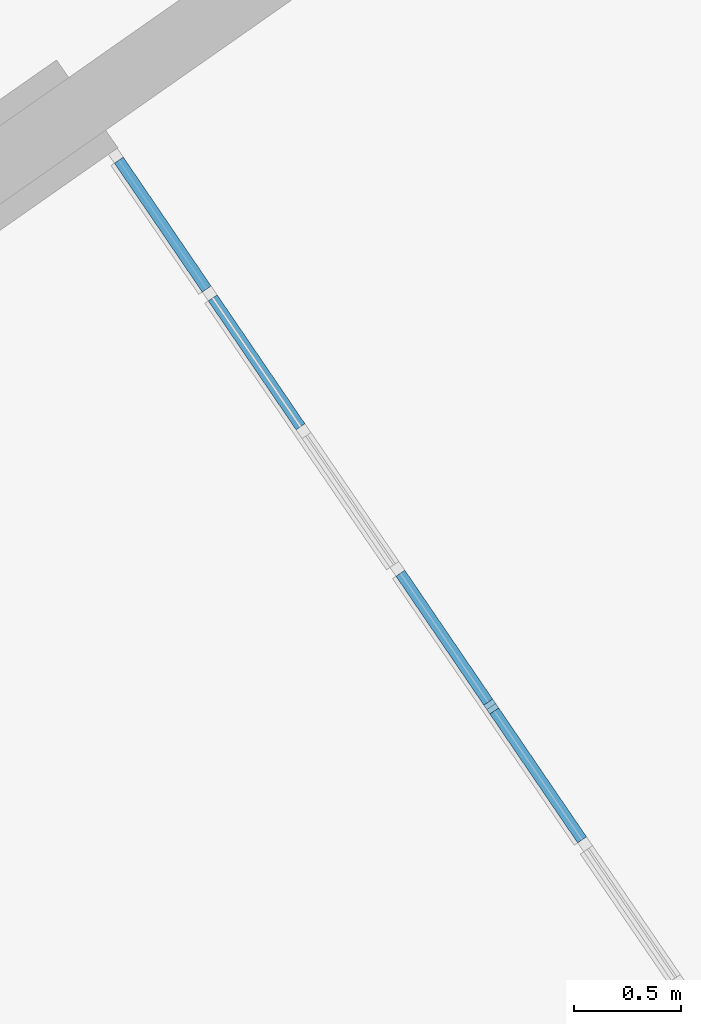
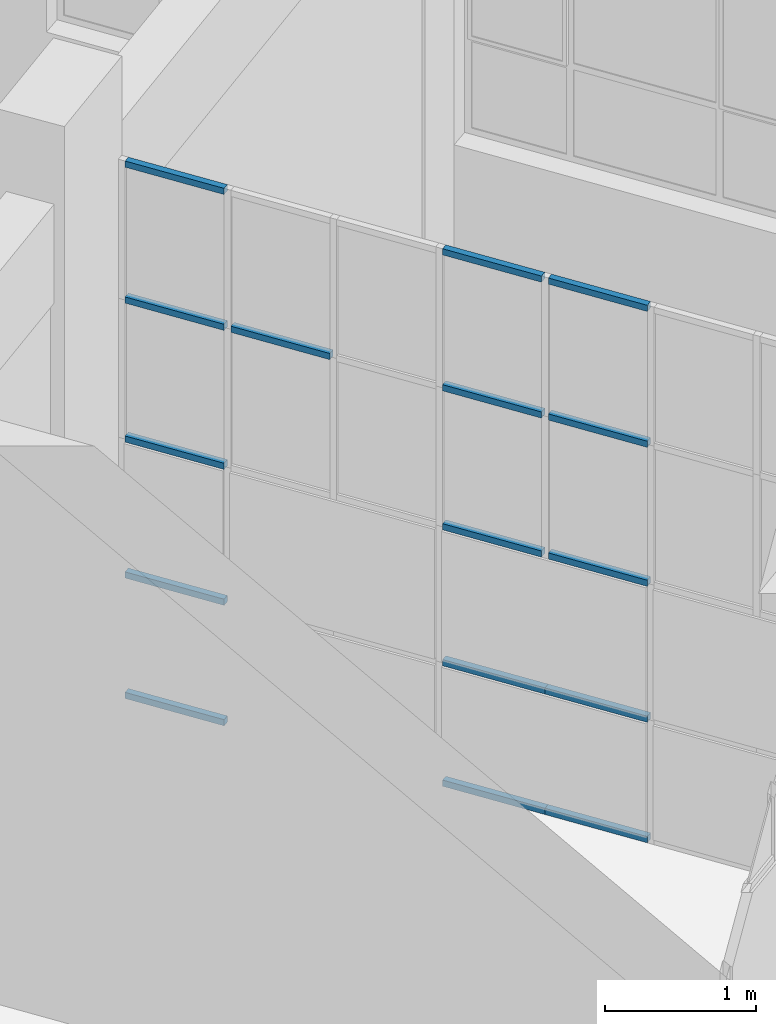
# One storey, part 35 of 157: 16 members, 1 element without a shape of its own.
"""IFC2X3 building model written with IfcOpenShell, lengths in millimetres."""

import ifcopenshell
import ifcopenshell.guid

model = None  # the IFC model being written
_history = None  # IfcOwnerHistory: only IFC2X3 demands one
_inside = {}  # id of a spatial element -> (the spatial element, [elements in it])
_under = {}  # id of a project, library or spatial element -> (it, [spatial elements below it])
_declared = {}  # id of a project -> (the project, [libraries it declares])
_typed = {}  # id of a type object -> (the type object, [elements of that type])
_made_of = {}  # id of a material, layer set ... -> (it, [elements and type objects made of it])


def new_model(schema):
    """Start an empty IFC model of exactly this schema.

    Asked for "IFC4X3", IfcOpenShell would pick the latest addendum, in which some entities
    have other attributes; the version numbers below select the first issue.
    IFC2X3 requires an IfcOwnerHistory on every rooted entity: one is made here for all.
    """
    global model, _history
    if schema == "IFC4X3":
        model = ifcopenshell.file(schema_version=(4, 3, 0, 0))
    else:
        model = ifcopenshell.file(schema=schema)
    _inside.clear()
    _under.clear()
    _declared.clear()
    _typed.clear()
    _made_of.clear()
    _history = None
    if model.schema == "IFC2X3":
        org = make("IfcOrganization", Name="unknown")
        user = make(
            "IfcPersonAndOrganization",
            ThePerson=make("IfcPerson", FamilyName="unknown"),
            TheOrganization=org,
        )
        app = make(
            "IfcApplication",
            ApplicationDeveloper=org,
            Version="unknown",
            ApplicationFullName="unknown",
            ApplicationIdentifier="unknown",
        )
        _history = make(
            "IfcOwnerHistory",
            OwningUser=user,
            OwningApplication=app,
            ChangeAction="ADDED",
            CreationDate=0,
        )
    return model


def make(cls, **values):
    """One entity of the class cls with the attributes given. An attribute that is None is left unset."""
    return model.create_entity(
        cls, **{name: value for name, value in values.items() if value is not None}
    )


def entity(cls, *values):
    """Any entity or typed value of the class cls, its attributes in the order of the schema. None: left unset."""
    e = model.create_entity(cls)
    for i, value in enumerate(values):
        if value is not None:
            e[i] = value
    return e


def rooted(cls, **values):
    """An entity with a GlobalId (a new one), such as an element, a storey or a relation."""
    return make(cls, GlobalId=ifcopenshell.guid.new(), OwnerHistory=_history, **values)


def si_unit(unit_type, name, prefix=None):
    """IfcSIUnit, for example si_unit("LENGTHUNIT", "METRE", prefix="MILLI")."""
    return make("IfcSIUnit", UnitType=unit_type, Prefix=prefix, Name=name)


def converted_unit(unit_type, name, factor, base, dimensions=None, offset=None):
    """IfcConversionBasedUnit, such as the inch: factor (a typed value) times the base unit."""
    return make(
        "IfcConversionBasedUnit"
        if offset is None
        else "IfcConversionBasedUnitWithOffset",
        ConversionOffset=offset,
        Dimensions=None
        if dimensions is None
        else entity("IfcDimensionalExponents", *dimensions),
        UnitType=unit_type,
        Name=name,
        ConversionFactor=make(
            "IfcMeasureWithUnit", ValueComponent=factor, UnitComponent=base
        ),
    )


def derived_unit(unit_type, elements):
    """IfcDerivedUnit: a product of units, each with its exponent."""
    return make(
        "IfcDerivedUnit",
        Elements=[
            make("IfcDerivedUnitElement", Unit=unit, Exponent=power)
            for unit, power in elements
        ],
        UnitType=unit_type,
    )


def assignment(units):
    """IfcUnitAssignment: the units of a project."""
    return None if units is None else make("IfcUnitAssignment", Units=units)


def point(xyz):
    """IfcCartesianPoint."""
    return None if xyz is None else make("IfcCartesianPoint", Coordinates=xyz)


def direction(xyz):
    """IfcDirection."""
    return None if xyz is None else make("IfcDirection", DirectionRatios=xyz)


def frame(location, z_axis=None, x_axis=None):
    """IfcAxis2Placement3D, a coordinate frame: its origin and axes. An axis left out is left unset."""
    return make(
        "IfcAxis2Placement3D",
        Location=point(location),
        Axis=direction(z_axis),
        RefDirection=direction(x_axis),
    )


def frame_2d(location, x_axis=None):
    """IfcAxis2Placement2D, a coordinate frame in the plane: its origin and x axis."""
    return make(
        "IfcAxis2Placement2D", Location=point(location), RefDirection=direction(x_axis)
    )


def origin():
    """The frame at (0, 0, 0) with its axes left unset."""
    return frame((0.0, 0.0, 0.0))


def origin_2d_with_axis():
    """The frame at (0, 0) in the plane with the x axis (1, 0) written out."""
    return frame_2d((0.0, 0.0), x_axis=(1.0, 0.0))


def place(relative_to, where):
    """IfcLocalPlacement: puts the frame where relative to a parent placement (None: the world)."""
    return make(
        "IfcLocalPlacement", PlacementRelTo=relative_to, RelativePlacement=where
    )


def context(
    kind, dimensions, precision=None, world=None, true_north=None, identifier=None
):
    """IfcGeometricRepresentationContext, for example the 3D "Model" context."""
    return make(
        "IfcGeometricRepresentationContext",
        ContextIdentifier=identifier,
        ContextType=kind,
        CoordinateSpaceDimension=dimensions,
        Precision=precision,
        WorldCoordinateSystem=world,
        TrueNorth=true_north,
    )


def subcontext(parent, identifier, kind, view, scale=None):
    """IfcGeometricRepresentationSubContext, for example "Body" below "Model"."""
    return make(
        "IfcGeometricRepresentationSubContext",
        ContextIdentifier=identifier,
        ContextType=kind,
        ParentContext=parent,
        TargetScale=scale,
        TargetView=view,
    )


def project(units=None, contexts=None):
    """IfcProject with its units and contexts."""
    return rooted(
        "IfcProject",
        Name="project",
        RepresentationContexts=contexts,
        UnitsInContext=assignment(units),
    )


def spatial(cls, under=None, at=None, **own):
    """A site, building, storey or space (cls), placed at a placement, below another one or the project."""
    s = rooted(cls, ObjectPlacement=at, **own)
    if under is not None:
        _under.setdefault(under.id(), (under, []))[1].append(s)
    return s


def profile(cls, at=None, kind="AREA", **sizes):
    """A parametric profile (cls). Its sizes go by their IFC names, for example OverallWidth=200.0."""
    return make(cls, ProfileType=kind, Position=at, **sizes)


def rectangle(**sizes):
    """IfcRectangleProfileDef."""
    return profile("IfcRectangleProfileDef", **sizes)


def extrude(swept, where, along, depth):
    """IfcExtrudedAreaSolid: the profile swept, set in the frame where, extruded along a direction by depth."""
    return make(
        "IfcExtrudedAreaSolid",
        SweptArea=swept,
        Position=where,
        ExtrudedDirection=direction(along),
        Depth=depth,
    )


def shape(context_of_items, identifier, shape_type, items):
    """IfcShapeRepresentation: the items that make up one representation, for example the "Body"."""
    return make(
        "IfcShapeRepresentation",
        ContextOfItems=context_of_items,
        RepresentationIdentifier=identifier,
        RepresentationType=shape_type,
        Items=items,
    )


def source(mapping_origin, context_of_items, identifier, shape_type, items):
    """IfcRepresentationMap: a shape defined once, which mapped items show again and again."""
    return make(
        "IfcRepresentationMap",
        MappingOrigin=mapping_origin,
        MappedRepresentation=shape(context_of_items, identifier, shape_type, items),
    )


def transform(
    local_origin,
    x_axis=None,
    y_axis=None,
    z_axis=None,
    scale=None,
    scale2=None,
    scale3=None,
    uniform=True,
):
    """IfcCartesianTransformationOperator3D, or its non-uniform kind. x_axis, y_axis, z_axis: its Axis1, 2, 3."""
    if uniform:
        return make(
            "IfcCartesianTransformationOperator3D",
            Axis1=direction(x_axis),
            Axis2=direction(y_axis),
            LocalOrigin=point(local_origin),
            Scale=scale,
            Axis3=direction(z_axis),
        )
    return make(
        "IfcCartesianTransformationOperator3DnonUniform",
        Axis1=direction(x_axis),
        Axis2=direction(y_axis),
        LocalOrigin=point(local_origin),
        Scale=scale,
        Axis3=direction(z_axis),
        Scale2=scale2,
        Scale3=scale3,
    )


def mapped(mapping_source, mapping_target):
    """IfcMappedItem: shows the shape of a source again, moved by a transform."""
    return make(
        "IfcMappedItem", MappingSource=mapping_source, MappingTarget=mapping_target
    )


def material(Name=None, Category=None):
    """IfcMaterial."""
    return make("IfcMaterial", Name=Name, Category=Category)


def made_of(thing, what):
    """Note that an element or type object is made of a material, layer set ...; save() writes the relation."""
    if what is not None:
        _made_of.setdefault(what.id(), (what, []))[1].append(thing)
    return thing


def type_object(cls, material=None, **own):
    """A type object (cls), such as IfcWallType, which elements share."""
    return made_of(rooted(cls, **own), material)


def type_shapes(of_type, sources):
    """Give a type object the sources (RepresentationMaps) that its elements show as mapped items."""
    of_type.RepresentationMaps = sources


def element(
    cls,
    number,
    at=None,
    inside=None,
    cuts=None,
    type_object=None,
    material=None,
    context=None,
    identifier="Body",
    shape_type=None,
    held_by="IfcProductDefinitionShape",
    body=None,
    shapes=None,
    **own,
):
    """One element of the class cls, such as IfcWall. Its Tag is "e" and its number.

    at: its placement. inside: the storey or other place that contains it. cuts: it is an
    opening in that element (IfcRelVoidsElement). A single representation is given by context,
    identifier, shape_type and body (its items); several are given by shapes. held_by: the class
    of the entity that holds the representations. save() writes the other relations.
    """
    e = rooted(cls, Tag="e%d" % number, ObjectPlacement=at, **own)
    if body is not None:
        shapes = [shape(context, identifier, shape_type, body)]
    if shapes is not None:
        e.Representation = make(held_by, Representations=shapes)
    if inside is not None:
        _inside.setdefault(inside.id(), (inside, []))[1].append(e)
    if cuts is not None:
        rooted(
            "IfcRelVoidsElement", RelatingBuildingElement=cuts, RelatedOpeningElement=e
        )
    if type_object is not None:
        _typed.setdefault(type_object.id(), (type_object, []))[1].append(e)
    return made_of(e, material)


def aggregate(whole, parts):
    """IfcRelAggregates: a whole, such as a stair, and the parts it consists of."""
    return rooted("IfcRelAggregates", RelatingObject=whole, RelatedObjects=parts)


def save(model, path):
    """Write the relations noted so far, then the file.

    IfcRelAggregates (storeys below a building ...), IfcRelContainedInSpatialStructure (elements
    in a storey), IfcRelDefinesByType, IfcRelAssociatesMaterial and IfcRelDeclares: one each for
    every whole, place, type object, material and project.
    """
    for whole, parts in _under.values():
        aggregate(whole, parts)
    for where, things in _inside.values():
        rooted(
            "IfcRelContainedInSpatialStructure",
            RelatedElements=things,
            RelatingStructure=where,
        )
    for kind, things in _typed.values():
        rooted("IfcRelDefinesByType", RelatedObjects=things, RelatingType=kind)
    for what, things in _made_of.values():
        rooted("IfcRelAssociatesMaterial", RelatedObjects=things, RelatingMaterial=what)
    for by, libraries in _declared.values():
        rooted("IfcRelDeclares", RelatingContext=by, RelatedDefinitions=libraries)
    model.write(path)


model = new_model("IFC2X3")

# Units and contexts
model_context = context("Model", 3, precision=0.01, world=origin(), true_north=direction((6.123031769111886e-17, 1.0)))
body_context = subcontext(model_context, "Body", "Model", "MODEL_VIEW")
ifc_project = project(units=[si_unit("LENGTHUNIT", "METRE", prefix="MILLI"), si_unit("AREAUNIT", "SQUARE_METRE"), si_unit("VOLUMEUNIT", "CUBIC_METRE"), converted_unit("PLANEANGLEUNIT", "DEGREE", entity("IfcRatioMeasure", 0.017453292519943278), si_unit("PLANEANGLEUNIT", "RADIAN"), dimensions=[0, 0, 0, 0, 0, 0, 0]), si_unit("MASSUNIT", "GRAM", prefix="KILO"), derived_unit("MASSDENSITYUNIT", [(si_unit("MASSUNIT", "GRAM", prefix="KILO"), 1), (si_unit("LENGTHUNIT", "METRE"), -3)]), derived_unit("MOMENTOFINERTIAUNIT", [(si_unit("LENGTHUNIT", "METRE"), 4)]), si_unit("TIMEUNIT", "SECOND"), si_unit("FREQUENCYUNIT", "HERTZ"), si_unit("THERMODYNAMICTEMPERATUREUNIT", "DEGREE_CELSIUS"), derived_unit("THERMALTRANSMITTANCEUNIT", [(si_unit("MASSUNIT", "GRAM", prefix="KILO"), 1), (si_unit("THERMODYNAMICTEMPERATUREUNIT", "KELVIN"), -1), (si_unit("TIMEUNIT", "SECOND"), -3)]), derived_unit("THERMALCONDUCTANCEUNIT", [(si_unit("MASSUNIT", "GRAM", prefix="KILO"), 1), (si_unit("LENGTHUNIT", "METRE"), 1), (si_unit("THERMODYNAMICTEMPERATUREUNIT", "KELVIN"), -1), (si_unit("TIMEUNIT", "SECOND"), -3)]), derived_unit("VOLUMETRICFLOWRATEUNIT", [(si_unit("LENGTHUNIT", "METRE"), 3), (si_unit("TIMEUNIT", "SECOND"), -1)]), derived_unit("MASSFLOWRATEUNIT", [(si_unit("MASSUNIT", "GRAM", prefix="KILO"), 1), (si_unit("TIMEUNIT", "SECOND"), -1)]), derived_unit("ROTATIONALFREQUENCYUNIT", [(si_unit("TIMEUNIT", "SECOND"), -1)]), si_unit("ELECTRICCURRENTUNIT", "AMPERE"), si_unit("ELECTRICVOLTAGEUNIT", "VOLT"), si_unit("POWERUNIT", "WATT"), converted_unit("FORCEUNIT", "KIP", entity("IfcRatioMeasure", 2.088543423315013e-05), si_unit("FORCEUNIT", "NEWTON"), dimensions=[1, 1, -2, 0, 0, 0, 0]), si_unit("ILLUMINANCEUNIT", "LUX"), si_unit("LUMINOUSFLUXUNIT", "LUMEN"), si_unit("LUMINOUSINTENSITYUNIT", "CANDELA"), derived_unit("USERDEFINED", [(si_unit("MASSUNIT", "GRAM", prefix="KILO"), -1), (si_unit("LENGTHUNIT", "METRE"), -2), (si_unit("TIMEUNIT", "SECOND"), 3), (si_unit("LUMINOUSFLUXUNIT", "LUMEN"), 1)]), derived_unit("USERDEFINED", [(si_unit("MASSUNIT", "GRAM", prefix="KILO"), 1), (si_unit("LENGTHUNIT", "METRE"), 3), (si_unit("TIMEUNIT", "SECOND"), -3), (si_unit("ELECTRICCURRENTUNIT", "AMPERE"), -2)]), derived_unit("USERDEFINED", [(si_unit("LENGTHUNIT", "METRE"), 2), (si_unit("TIMEUNIT", "SECOND"), -2)]), derived_unit("SOUNDPOWERUNIT", [(si_unit("MASSUNIT", "GRAM", prefix="KILO"), 1), (si_unit("LENGTHUNIT", "METRE"), 2), (si_unit("TIMEUNIT", "SECOND"), -3)]), derived_unit("SOUNDPRESSUREUNIT", [(si_unit("MASSUNIT", "GRAM", prefix="KILO"), 1), (si_unit("LENGTHUNIT", "METRE"), -1), (si_unit("TIMEUNIT", "SECOND"), -2)]), derived_unit("LINEARVELOCITYUNIT", [(si_unit("LENGTHUNIT", "METRE"), 1), (si_unit("TIMEUNIT", "SECOND"), -1)]), si_unit("PRESSUREUNIT", "PASCAL"), derived_unit("USERDEFINED", [(si_unit("LENGTHUNIT", "METRE"), -2), (si_unit("MASSUNIT", "GRAM", prefix="KILO"), 1), (si_unit("TIMEUNIT", "SECOND"), -2)]), derived_unit("LINEARFORCEUNIT", [(si_unit("MASSUNIT", "GRAM", prefix="KILO"), 1), (si_unit("LENGTHUNIT", "METRE"), 1), (si_unit("TIMEUNIT", "SECOND"), -2), (si_unit("LENGTHUNIT", "METRE"), -1)]), derived_unit("PLANARFORCEUNIT", [(si_unit("MASSUNIT", "GRAM", prefix="KILO"), 1), (si_unit("LENGTHUNIT", "METRE"), 1), (si_unit("TIMEUNIT", "SECOND"), -2), (si_unit("LENGTHUNIT", "METRE"), -2)]), derived_unit("SPECIFICHEATCAPACITYUNIT", [(si_unit("LENGTHUNIT", "METRE"), 2), (si_unit("TIMEUNIT", "SECOND"), -2), (si_unit("THERMODYNAMICTEMPERATUREUNIT", "KELVIN"), -1)]), derived_unit("VAPORPERMEABILITYUNIT", [(si_unit("TIMEUNIT", "SECOND"), 1), (si_unit("LENGTHUNIT", "METRE"), -1)]), derived_unit("DYNAMICVISCOSITYUNIT", [(si_unit("MASSUNIT", "GRAM", prefix="KILO"), 1), (si_unit("LENGTHUNIT", "METRE"), -1), (si_unit("TIMEUNIT", "SECOND"), -1)]), derived_unit("THERMALEXPANSIONCOEFFICIENTUNIT", [(si_unit("THERMODYNAMICTEMPERATUREUNIT", "KELVIN"), -1)])], contexts=[model_context])

# Site, building, storey
site_placement = place(None, frame((0.0, 0.0, 0.0), z_axis=(0.0, 0.0, 1.0), x_axis=(0.8191520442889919, 0.5735764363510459, 0.0)))
site = spatial("IfcSite", under=ifc_project, at=site_placement, Name="Default", CompositionType="ELEMENT")
building_placement = place(site_placement, origin())
building = spatial("IfcBuilding", under=site, at=building_placement, CompositionType="ELEMENT")
storey_placement = place(building_placement, origin())
storey = spatial("IfcBuildingStorey", under=building, at=storey_placement, Name="1.EG +0.00", CompositionType="ELEMENT", Elevation=-4.331468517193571e-12)

# Curtain wall, members
curtain_wall_type = type_object("IfcCurtainWallType", Name="Curtain Wall:Curtain_Wall_CJC_Int5", PredefinedType="NOTDEFINED")
curtain_wall_placement = place(storey_placement, origin())
curtain_wall = element("IfcCurtainWall", 1, at=curtain_wall_placement, inside=storey, type_object=curtain_wall_type, Name="Curtain Wall:Curtain_Wall_CJC_Int5", ObjectType="Curtain Wall:Curtain_Wall_CJC_Int5")
ifc_material = material(Name="Aluminium")
member_type_1 = type_object("IfcMemberType", Name="Rectangular Mullion:5x5", PredefinedType="MULLION", material=ifc_material)
shared_shape_1 = source(origin(), body_context, "Body", "SweptSolid", [
    extrude(rectangle(XDim=50.0, YDim=50.0, at=origin_2d_with_axis()), frame((-25.0, 0.0, -728.6339668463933), z_axis=(0.0, 0.0, 1.0), x_axis=(0.0, -1.0, 0.0)), (0.0, 0.0, 1.0), 728.6339668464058),
])
type_shapes(member_type_1, [shared_shape_1])
member_1_placement = place(curtain_wall_placement, frame((-210039.55333134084, 151696.36289373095, 4350.0), z_axis=(0.012616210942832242, 0.9999204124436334, 0.0), x_axis=(0.0, 0.0, 1.0)))
member_1 = element("IfcMember", 2, at=member_1_placement, type_object=member_type_1, material=ifc_material, Name="Rectangular Mullion:5x5", ObjectType="Rectangular Mullion:5x5", context=body_context, shape_type="MappedRepresentation", body=[
    mapped(shared_shape_1, transform((0.0, 0.0, 0.0), scale=1.0)),
])
member_2_placement = place(curtain_wall_placement, frame((-210078.84697282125, 148582.0749055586, 4350.0), z_axis=(0.012616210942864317, 0.999920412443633, 0.0), x_axis=(0.0, 0.0, 1.0)))
member_2 = element("IfcMember", 3, at=member_2_placement, type_object=member_type_1, material=ifc_material, Name="Rectangular Mullion:5x5", ObjectType="Rectangular Mullion:5x5", context=body_context, shape_type="MappedRepresentation", body=[
    mapped(shared_shape_1, transform((0.0, 0.0, 0.0), scale=1.0)),
])
member_3_placement = place(curtain_wall_placement, frame((-210069.02356245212, 149360.64690252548, 4350.0), z_axis=(0.012616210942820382, 0.9999204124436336, 0.0), x_axis=(0.0, 0.0, 1.0)))
member_3 = element("IfcMember", 4, at=member_3_placement, type_object=member_type_1, material=ifc_material, Name="Rectangular Mullion:5x5", ObjectType="Rectangular Mullion:5x5", context=body_context, shape_type="MappedRepresentation", body=[
    mapped(shared_shape_1, transform((0.0, 0.0, 0.0), scale=1.0)),
])
member_type_2 = type_object("IfcMemberType", Name="Rectangular Mullion:5x5", PredefinedType="MULLION", material=ifc_material)
shared_shape_2 = source(origin(), body_context, "Body", "SweptSolid", [
    extrude(rectangle(XDim=50.0, YDim=50.0, at=origin_2d_with_axis()), frame((-25.0, 0.0, -753.6339668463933), z_axis=(0.0, 0.0, 1.0), x_axis=(0.0, -1.0, 0.0)), (0.0, 0.0, 1.0), 753.6339668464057),
])
type_shapes(member_type_2, [shared_shape_2])
member_4_placement = place(curtain_wall_placement, frame((-210088.03957264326, 147853.49892921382, 0.0), z_axis=(-0.012616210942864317, -0.999920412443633, 0.0), x_axis=(0.0, 0.0, -1.0)))
member_4 = element("IfcMember", 5, at=member_4_placement, type_object=member_type_2, material=ifc_material, Name="Rectangular Mullion:5x5", ObjectType="Rectangular Mullion:5x5", context=body_context, shape_type="MappedRepresentation", body=[
    mapped(shared_shape_2, transform((0.0, 0.0, 0.0), scale=1.0)),
])
member_type_3 = type_object("IfcMemberType", Name="Rectangular Mullion:5x5", PredefinedType="MULLION", material=ifc_material)
shared_shape_3 = source(origin(), body_context, "Body", "SweptSolid", [
    extrude(rectangle(XDim=50.0, YDim=50.0, at=origin_2d_with_axis()), frame((-25.0, 0.0, -753.6339665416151), z_axis=(0.0, 0.0, 1.0), x_axis=(0.0, -1.0, 0.0)), (0.0, 0.0, 1.0), 753.6339665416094),
])
type_shapes(member_type_3, [shared_shape_3])
member_5_placement = place(curtain_wall_placement, frame((-210078.53156754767, 148607.07291586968, 0.0), z_axis=(-0.012616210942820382, -0.9999204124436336, 0.0), x_axis=(0.0, 0.0, -1.0)))
member_5 = element("IfcMember", 6, at=member_5_placement, type_object=member_type_3, material=ifc_material, Name="Rectangular Mullion:5x5", ObjectType="Rectangular Mullion:5x5", context=body_context, shape_type="MappedRepresentation", body=[
    mapped(shared_shape_3, transform((0.0, 0.0, 0.0), scale=1.0)),
])
member_type_4 = type_object("IfcMemberType", Name="Rectangular Mullion:5x5", PredefinedType="MULLION", material=ifc_material)
shared_shape_4 = source(origin(), body_context, "Body", "SweptSolid", [
    extrude(rectangle(XDim=50.0, YDim=50.0, at=origin_2d_with_axis()), frame((0.0, 0.0, -753.6339668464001), z_axis=(0.0, 0.0, 1.0), x_axis=(0.0, -1.0, 0.0)), (0.0, 0.0, 1.0), 753.6339668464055),
])
type_shapes(member_type_4, [shared_shape_4])
member_6_placement = place(curtain_wall_placement, frame((-210078.5315675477, 148607.07291586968, 1000.0), z_axis=(0.012616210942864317, 0.999920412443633, 0.0), x_axis=(0.0, 0.0, 1.0)))
member_6 = element("IfcMember", 7, at=member_6_placement, type_object=member_type_4, material=ifc_material, Name="Rectangular Mullion:5x5", ObjectType="Rectangular Mullion:5x5", context=body_context, shape_type="MappedRepresentation", body=[
    mapped(shared_shape_4, transform((0.0, 0.0, 0.0), scale=1.0)),
])
member_type_5 = type_object("IfcMemberType", Name="Rectangular Mullion:5x5", PredefinedType="MULLION", material=ifc_material)
shared_shape_5 = source(origin(), body_context, "Body", "SweptSolid", [
    extrude(rectangle(XDim=50.0, YDim=50.0, at=origin_2d_with_axis()), frame((0.0, 0.0, -753.6339665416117), z_axis=(0.0, 0.0, 1.0), x_axis=(0.0, -1.0, 0.0)), (0.0, 0.0, 1.0), 753.6339665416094),
])
type_shapes(member_type_5, [shared_shape_5])
member_7_placement = place(curtain_wall_placement, frame((-210069.02356245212, 149360.64690252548, 1000.0), z_axis=(0.012616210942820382, 0.9999204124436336, 0.0), x_axis=(0.0, 0.0, 1.0)))
member_7 = element("IfcMember", 8, at=member_7_placement, type_object=member_type_5, material=ifc_material, Name="Rectangular Mullion:5x5", ObjectType="Rectangular Mullion:5x5", context=body_context, shape_type="MappedRepresentation", body=[
    mapped(shared_shape_5, transform((0.0, 0.0, 0.0), scale=1.0)),
])
member_type_6 = type_object("IfcMemberType", Name="Rectangular Mullion:5x5", PredefinedType="MULLION", material=ifc_material)
shared_shape_6 = source(origin(), body_context, "Body", "SweptSolid", [
    extrude(rectangle(XDim=50.0, YDim=50.0, at=origin_2d_with_axis()), frame((0.0, 0.0, -728.6339668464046), z_axis=(0.0, 0.0, 1.0), x_axis=(0.0, -1.0, 0.0)), (0.0, 0.0, 1.0), 728.6339668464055),
])
type_shapes(member_type_6, [shared_shape_6])
member_8_placement = place(curtain_wall_placement, frame((-210078.84697282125, 148582.0749055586, 2100.0), z_axis=(0.012616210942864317, 0.999920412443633, 0.0), x_axis=(0.0, 0.0, 1.0)))
member_8 = element("IfcMember", 9, at=member_8_placement, type_object=member_type_6, material=ifc_material, Name="Rectangular Mullion:5x5", ObjectType="Rectangular Mullion:5x5", context=body_context, shape_type="MappedRepresentation", body=[
    mapped(shared_shape_6, transform((0.0, 0.0, 0.0), scale=1.0)),
])
member_9_placement = place(curtain_wall_placement, frame((-210069.02356245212, 149360.64690252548, 2100.0), z_axis=(0.012616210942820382, 0.9999204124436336, 0.0), x_axis=(0.0, 0.0, 1.0)))
member_9 = element("IfcMember", 10, at=member_9_placement, type_object=member_type_6, material=ifc_material, Name="Rectangular Mullion:5x5", ObjectType="Rectangular Mullion:5x5", context=body_context, shape_type="MappedRepresentation", body=[
    mapped(shared_shape_6, transform((0.0, 0.0, 0.0), scale=1.0)),
])
member_10_placement = place(curtain_wall_placement, frame((-210078.84697282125, 148582.0749055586, 3225.0), z_axis=(0.012616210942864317, 0.999920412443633, 0.0), x_axis=(0.0, 0.0, 1.0)))
member_10 = element("IfcMember", 11, at=member_10_placement, type_object=member_type_6, material=ifc_material, Name="Rectangular Mullion:5x5", ObjectType="Rectangular Mullion:5x5", context=body_context, shape_type="MappedRepresentation", body=[
    mapped(shared_shape_6, transform((0.0, 0.0, 0.0), scale=1.0)),
])
member_11_placement = place(curtain_wall_placement, frame((-210069.02356245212, 149360.64690252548, 3225.0), z_axis=(0.012616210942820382, 0.9999204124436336, 0.0), x_axis=(0.0, 0.0, 1.0)))
member_11 = element("IfcMember", 12, at=member_11_placement, type_object=member_type_6, material=ifc_material, Name="Rectangular Mullion:5x5", ObjectType="Rectangular Mullion:5x5", context=body_context, shape_type="MappedRepresentation", body=[
    mapped(shared_shape_6, transform((0.0, 0.0, 0.0), scale=1.0)),
])
member_12_placement = place(curtain_wall_placement, frame((-210039.55333134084, 151696.36289373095, 1000.0), z_axis=(0.012616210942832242, 0.9999204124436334, 0.0), x_axis=(0.0, 0.0, 1.0)))
member_12 = element("IfcMember", 13, at=member_12_placement, type_object=member_type_6, material=ifc_material, Name="Rectangular Mullion:5x5", ObjectType="Rectangular Mullion:5x5", context=body_context, shape_type="MappedRepresentation", body=[
    mapped(shared_shape_6, transform((0.0, 0.0, 0.0), scale=1.0)),
])
member_13_placement = place(curtain_wall_placement, frame((-210039.55333134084, 151696.36289373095, 2100.0), z_axis=(0.012616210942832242, 0.9999204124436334, 0.0), x_axis=(0.0, 0.0, 1.0)))
member_13 = element("IfcMember", 14, at=member_13_placement, type_object=member_type_6, material=ifc_material, Name="Rectangular Mullion:5x5", ObjectType="Rectangular Mullion:5x5", context=body_context, shape_type="MappedRepresentation", body=[
    mapped(shared_shape_6, transform((0.0, 0.0, 0.0), scale=1.0)),
])
member_14_placement = place(curtain_wall_placement, frame((-210049.37674171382, 150917.79089645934, 3225.0), z_axis=(0.012616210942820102, 0.9999204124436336, 0.0), x_axis=(0.0, 0.0, 1.0)))
member_14 = element("IfcMember", 15, at=member_14_placement, type_object=member_type_6, material=ifc_material, Name="Rectangular Mullion:5x5", ObjectType="Rectangular Mullion:5x5", context=body_context, shape_type="MappedRepresentation", body=[
    mapped(shared_shape_6, transform((0.0, 0.0, 0.0), scale=1.0)),
])
member_15_placement = place(curtain_wall_placement, frame((-210039.55333134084, 151696.36289373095, 3225.0), z_axis=(0.012616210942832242, 0.9999204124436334, 0.0), x_axis=(0.0, 0.0, 1.0)))
member_15 = element("IfcMember", 16, at=member_15_placement, type_object=member_type_6, material=ifc_material, Name="Rectangular Mullion:5x5", ObjectType="Rectangular Mullion:5x5", context=body_context, shape_type="MappedRepresentation", body=[
    mapped(shared_shape_6, transform((0.0, 0.0, 0.0), scale=1.0)),
])
member_type_7 = type_object("IfcMemberType", Name="Rectangular Mullion:5x5", PredefinedType="MULLION", material=ifc_material)
shared_shape_7 = source(origin(), body_context, "Body", "SweptSolid", [
    extrude(rectangle(XDim=50.0, YDim=50.0, at=origin_2d_with_axis()), frame((-25.0, 0.0, -728.6339668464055), z_axis=(0.0, 0.0, 1.0), x_axis=(0.0, -1.0, 0.0)), (0.0, 0.0, 1.0), 728.6339668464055),
])
type_shapes(member_type_7, [shared_shape_7])
member_16_placement = place(curtain_wall_placement, frame((-210048.74593116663, 150967.78691708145, 0.0), z_axis=(-0.012616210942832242, -0.9999204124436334, 0.0), x_axis=(0.0, 0.0, -1.0)))
member_16 = element("IfcMember", 17, at=member_16_placement, type_object=member_type_7, material=ifc_material, Name="Rectangular Mullion:5x5", ObjectType="Rectangular Mullion:5x5", context=body_context, shape_type="MappedRepresentation", body=[
    mapped(shared_shape_7, transform((0.0, 0.0, 0.0), scale=1.0)),
])
aggregate(curtain_wall, [member_1, member_2, member_3, member_4, member_5, member_6, member_7, member_8, member_9, member_10, member_11, member_16, member_12, member_13, member_14, member_15])

save(model, "model.ifc")
